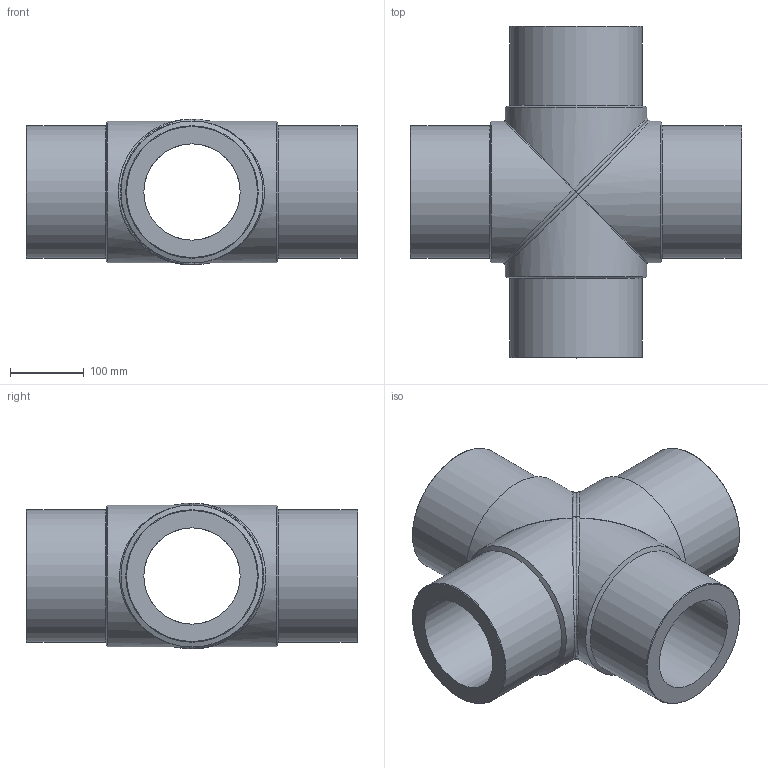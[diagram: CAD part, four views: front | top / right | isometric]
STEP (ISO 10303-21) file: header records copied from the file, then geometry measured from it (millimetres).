
FILE_DESCRIPTION(/* description */ ('Unknown'),/* implementation_level */ '2;1');
FILE_NAME(/* name */ 'CRP180H',/* time_stamp */ '2022-07-08T14:48:36+02:00',/* author */ ('Unknown'),/* organization */ ('Unknown'),/* preprocessor_version */ 'ST-DEVELOPER v18.102',/* originating_system */ 'Solid Edge',/* authorisation */ 'Unknown');
FILE_SCHEMA (('AUTOMOTIVE_DESIGN {1 0 10303 214 3 1 1}'));
Length unit declared in the file: millimetre
Products named in the file (3): CRP180H; CRP180H_mir
Assembly tree (2 placements, depth 2):
  CRP180H
    CRP180H
    CRP180H_mir
Bounding box: 451 x 451 x 197.99 mm (x, y, z)
Volume: 9307222.7 mm3; surface area: 785966.9 mm2
Topology: 2 solids, 2 shells, 32 faces, 88 edges, 58 vertices
Faces by surface type: cylinder 12, cone 8, plane 6, bspline 6
Full cylindrical faces by diameter (mm): 130.8 x4, 180 x4, 193 x4
Entity records: 3235 total; most frequent: CARTESIAN_POINT 2517, DIRECTION 126, ORIENTED_EDGE 116, AXIS2_PLACEMENT_3D 63, EDGE_CURVE 58, EDGE_LOOP 58, FACE_BOUND 58, VERTEX_POINT 48
